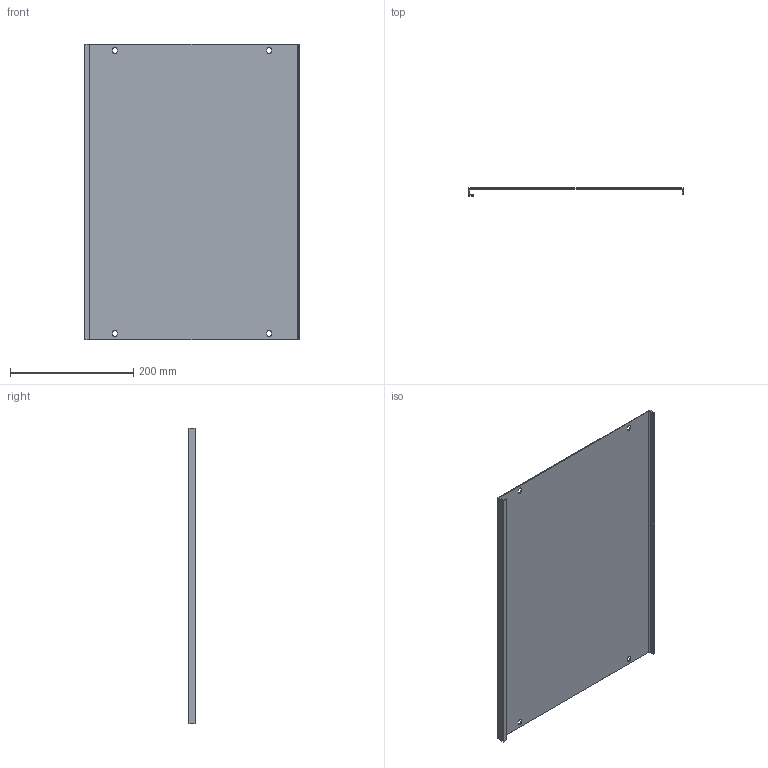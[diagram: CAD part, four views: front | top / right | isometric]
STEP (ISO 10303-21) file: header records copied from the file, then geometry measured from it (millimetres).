
FILE_DESCRIPTION (( 'STEP AP214' ), '1' );
FILE_NAME ('FO-00-PVS-035-060 Ïëàñòðîí ãëóõîé âíóòðåííèé 350õ600.STEP', '2025-08-26T10:03:04', ( '' ), ( '' ), 'SwSTEP 2.0', 'SolidWorks 2023', '' );
FILE_SCHEMA (( 'AUTOMOTIVE_DESIGN' ));
Length unit declared in the file: millimetre
Products named in the file (1): FO-00-PVS-035-060 Пластрон глухой внутренний 350х600
Bounding box: 348 x 12.5 x 479 mm (x, y, z)
Volume: 268659.2 mm3; surface area: 360194.8 mm2
Topology: 1 solids, 1 shells, 43 faces, 119 edges, 78 vertices
Faces by surface type: plane 30, cylinder 13
Entity records: 1406 total; most frequent: CARTESIAN_POINT 241, ORIENTED_EDGE 238, DIRECTION 233, EDGE_CURVE 119, VECTOR 93, LINE 93, VERTEX_POINT 78, AXIS2_PLACEMENT_3D 70
